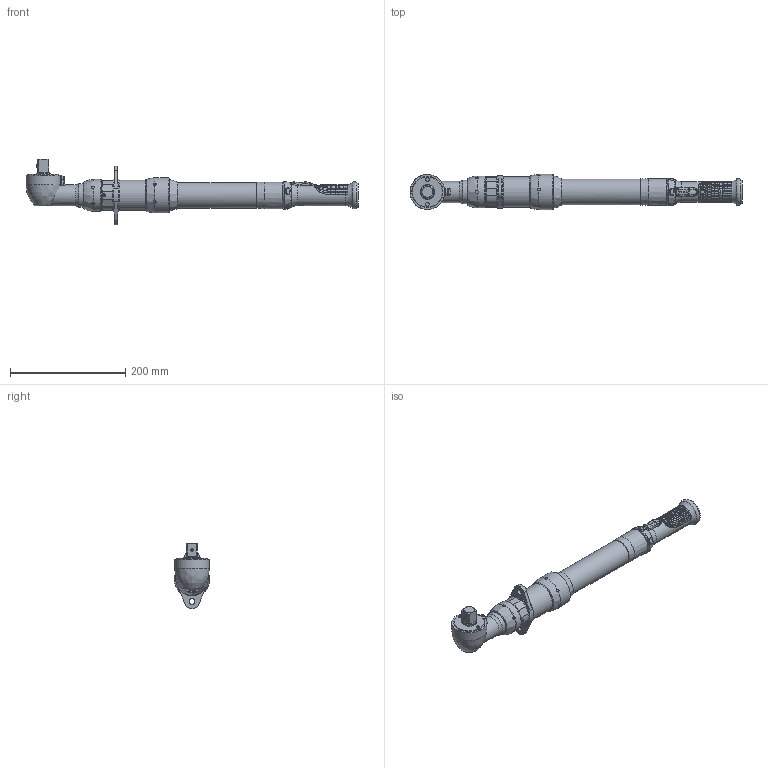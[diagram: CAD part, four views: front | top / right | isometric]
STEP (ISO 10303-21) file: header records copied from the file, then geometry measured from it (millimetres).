
FILE_DESCRIPTION(/* description */ (''),/* implementation_level */ '2;1');
FILE_NAME(/* name */ '10559656_A_SH01',/* time_stamp */ '2005-11-30T14:02:35+06:00',/* author */ (''),/* organization */ (''),/* preprocessor_version */ 'ST-DEVELOPER v9',/* originating_system */ 'EDS PLM SOLUTIONS - UNIGRAPHICS NX 2.0',/* authorisation */ '');
FILE_SCHEMA (('CONFIG_CONTROL_DESIGN'));
Length unit declared in the file: millimetre
Products named in the file (1): 10559656_A_SH01
Bounding box: 575.6 x 61.08 x 113.24 mm (x, y, z)
Volume: 1019068.2 mm3; surface area: 103050.3 mm2
Topology: 1 solids, 2 shells, 487 faces, 1239 edges, 794 vertices
Faces by surface type: cylinder 139, plane 120, cone 103, torus 63, bspline 47, extrusion 14, sphere 1
Full cylindrical faces by diameter (mm): 3.175 x1, 3.886 x1, 4.039 x1, 4.826 x1, 4.978 x12, 6.017 x1, 6.35 x3, 6.426 x1, 6.731 x1, 7.985 x1, 10.401 x2, 25.273 x1, 25.463 x1, 35.052 x1, 36.068 x1, 36.525 x1, 40.5 x1, 41.758 x1, 44.45 x1, 47.893 x1, 48.514 x1, 51.092 x1, 52.349 x1, 52.375 x1, 53.956 x1, 54.864 x1, 55.118 x1, 60.325 x1, 61.087 x1
Entity records: 20384 total; most frequent: CARTESIAN_POINT 10080, ORIENTED_EDGE 2216, DIRECTION 1836, EDGE_CURVE 1108, AXIS2_PLACEMENT_3D 812, VERTEX_POINT 745, EDGE_LOOP 620, B_SPLINE_CURVE_WITH_KNOTS 532
